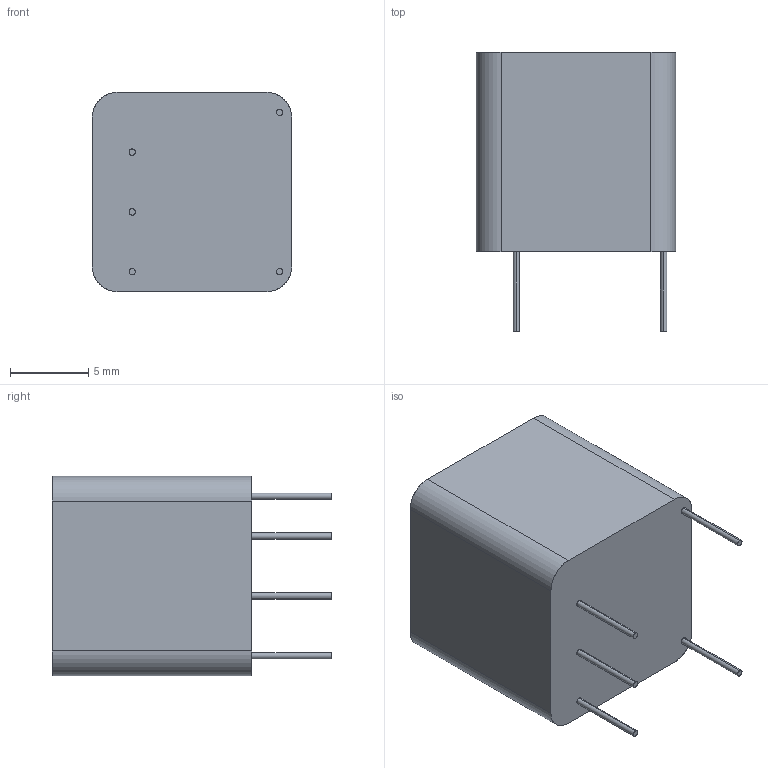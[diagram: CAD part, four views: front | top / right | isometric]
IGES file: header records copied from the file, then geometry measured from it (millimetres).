
Start section: SolidWorks IGES file using analytic representation for surfaces
Global section: file name: \\192.168.20.246\Eshare\Josh Moua\~For Darol\Checked .igs Files\Q25-50.IGS; native system: SolidWorks 2017; preprocessor: SolidWorks 2017; author: asmith; date: 171031.103357; units: inch
Bounding box: 12.7 x 17.78 x 12.7 mm (x, y, z)
Surface area: 961.6 mm2 (no closed solid volume)
Topology: 0 solids, 0 shells, 25 faces, 304 edges, 304 vertices
Faces by surface type: revolution 14, bspline 11
